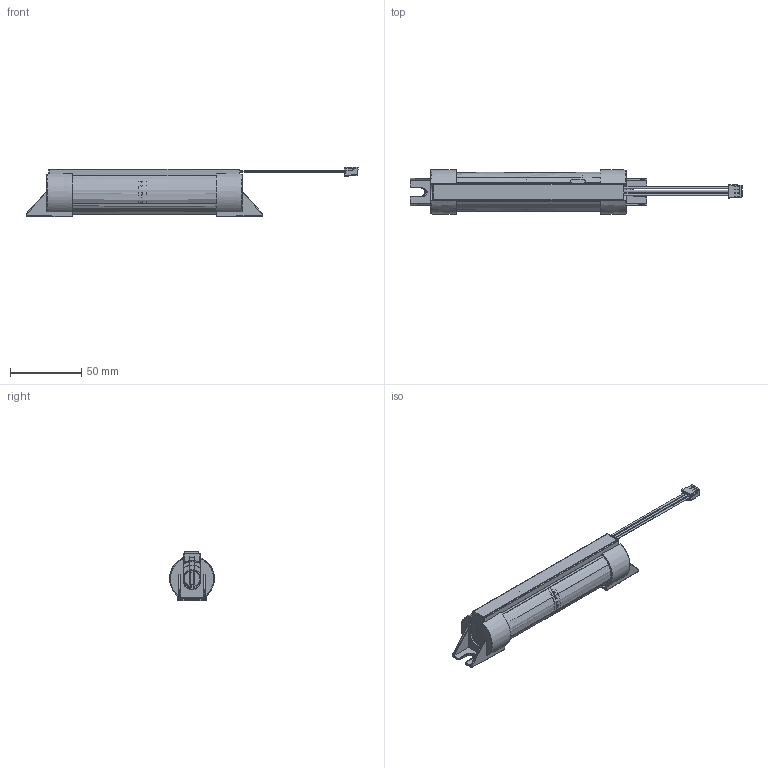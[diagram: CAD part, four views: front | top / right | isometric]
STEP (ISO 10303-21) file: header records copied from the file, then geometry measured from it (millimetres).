
FILE_DESCRIPTION((''),'2;1');
FILE_NAME('15014457Z_DMEC_28003814_2S1P','2021-05-03T07:49:47',('Juergen.Hrach'),(''),'CREO PARAMETRIC BY PTC INC, 2019164','CREO PARAMETRIC BY PTC INC, 2019164','');
FILE_SCHEMA(('CONFIG_CONTROL_DESIGN'));
Products named in the file (1): 15014457Z_DMEC_28003814_2S1P
Bounding box: 232.72 x 31.53 x 34.58 mm (x, y, z)
Volume: 77454 mm3; surface area: 57612.7 mm2
Topology: 2 solids, 5 shells, 759 faces, 1968 edges, 1196 vertices
Faces by surface type: bspline 677, revolution 82
Entity records: 93742 total; most frequent: CARTESIAN_POINT 78951, ORIENTED_EDGE 3882, EDGE_CURVE 1941, DIRECTION 1371, VERTEX_POINT 1196, VECTOR 961, LINE 961, B_SPLINE_CURVE_WITH_KNOTS 834
